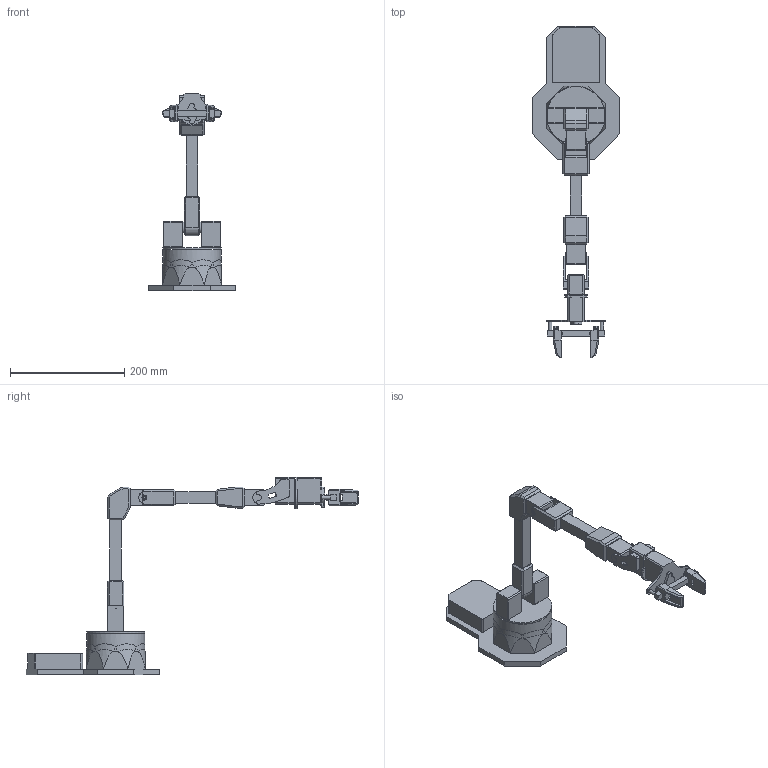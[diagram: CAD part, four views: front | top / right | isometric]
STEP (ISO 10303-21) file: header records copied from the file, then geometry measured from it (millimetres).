
FILE_DESCRIPTION(/* description */ (''),/* implementation_level */ '2;1');
FILE_NAME(/* name */ 'C:/Users/setup/Desktop/SOLIDS/4 - RXA-200-M/4 - RXA-200-M.step',/* time_stamp */ '2019-01-22T17:58:25-06:00',/* author */ ('wadecore'),/* organization */ (''),/* preprocessor_version */ 'ST-DEVELOPER v17.2',/* originating_system */ 'Autodesk Translation Framework v7.6.0.251',/* authorisation */ '');
FILE_SCHEMA (('AUTOMOTIVE_DESIGN { 1 0 10303 214 3 1 1 }'));
Length unit declared in the file: millimetre
Products named in the file (8): 4 - RXA-200-M; 430 Base; 430 Dual Shoulder; UA - 4 - RX-200; Fore - 4 - RX-200; 430 - Wrist; SRG; SRG Carriage With Finger
Assembly tree (8 placements, depth 2):
  4 - RXA-200-M
    430 Base
    430 Dual Shoulder
    UA - 4 - RX-200
    Fore - 4 - RX-200
    430 - Wrist
    SRG
    SRG Carriage With Finger  x2
Bounding box: 153.07 x 581.15 x 345.06 mm (x, y, z)
Volume: 1659838.9 mm3; surface area: 226981 mm2
Topology: 8 solids, 14 shells, 640 faces, 1621 edges, 1035 vertices
Faces by surface type: plane 473, cylinder 123, cone 24, bspline 20
Full cylindrical faces by diameter (mm): 2.1 x4, 3.8 x4, 4.5 x1, 4.9 x2, 6.3 x2, 8 x1, 12 x1, 19.5 x2, 20.5 x4, 40 x1, 62 x1, 96 x1, 102 x1, 102.181 x1
Entity records: 18186 total; most frequent: CARTESIAN_POINT 3856, ORIENTED_EDGE 2928, DIRECTION 2878, EDGE_CURVE 1464, LINE 1084, VECTOR 1084, VERTEX_POINT 931, AXIS2_PLACEMENT_3D 897
